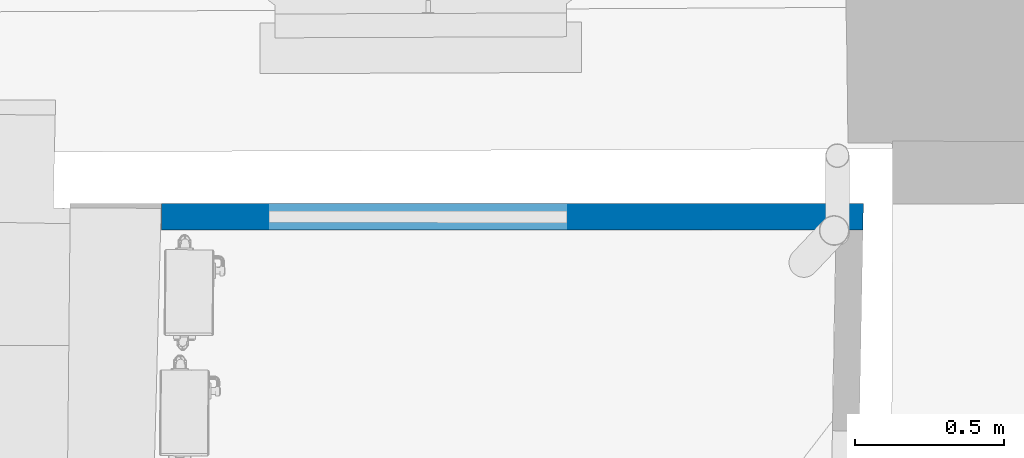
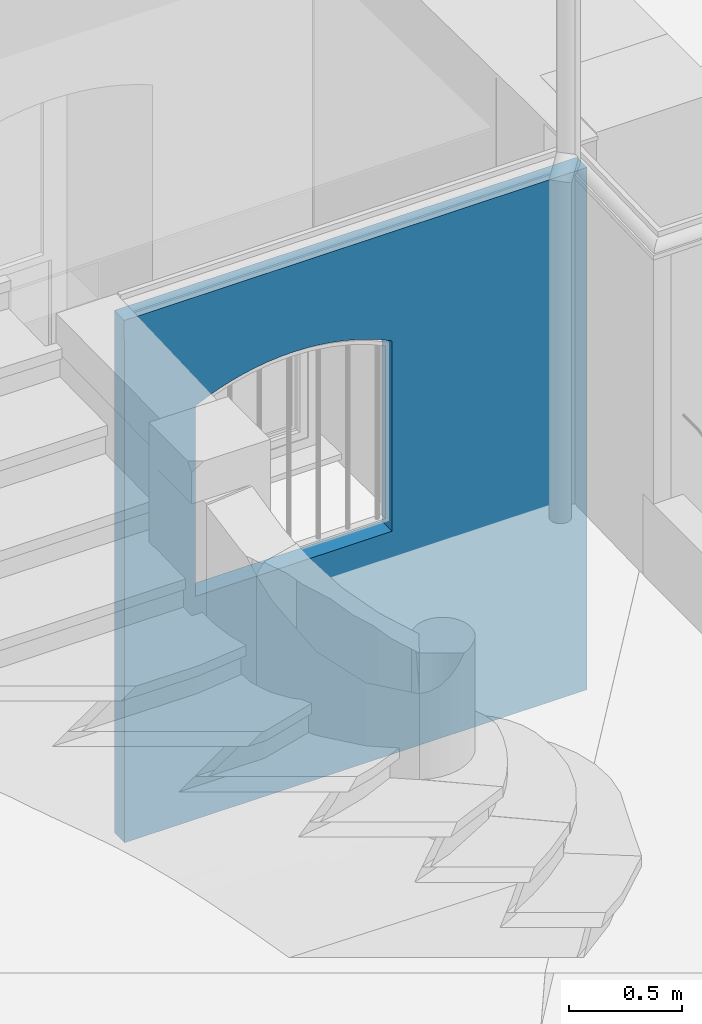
# One storey, part 15 of 133: 1 wall, 1 opening.
"""IFC2X3 building model written with IfcOpenShell, lengths in centimetres."""

from ifc_helpers import new_model, entity, si_unit, converted_unit, point, direction, frame, frame_2d, origin, origin_with_axes, place, context, subcontext, project, spatial, polyline, circle_curve, trimmed, segment, composite_curve, outline, extrude, clip, bounded_halfspace, shape, material, layer, layer_set, layer_usage, type_object, element, save


model = new_model("IFC2X3")

# Units and contexts
model_context = context("Model", 3, precision=0.0001, world=origin(), true_north=direction((0.225632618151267, 0.974212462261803, 0.0)))
body_context = subcontext(model_context, "Body", "Model", "MODEL_VIEW")
footprint_context = subcontext(model_context, "FootPrint", "Model", "MODEL_VIEW")
profile_context = subcontext(model_context, "Profile", "Model", "MODEL_VIEW")
ifc_project = project(units=[si_unit("LENGTHUNIT", "METRE", prefix="CENTI"), si_unit("AREAUNIT", "SQUARE_METRE", prefix="CENTI"), si_unit("VOLUMEUNIT", "CUBIC_METRE", prefix="CENTI"), converted_unit("PLANEANGLEUNIT", "DEGREE", entity("IfcRatioMeasure", 0.0174532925), si_unit("PLANEANGLEUNIT", "RADIAN"), dimensions=[0, 0, 0, 0, 0, 0, 0])], contexts=[model_context])

# Site, building, storey
site_placement = place(None, origin_with_axes())
site = spatial("IfcSite", under=ifc_project, at=site_placement, Name="Default Site", CompositionType="ELEMENT")
building_placement = place(site_placement, origin_with_axes())
building = spatial("IfcBuilding", under=site, at=building_placement, Name="Default Building", CompositionType="ELEMENT")
storey_placement = place(building_placement, frame((0.0, 0.0, -291.400371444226), z_axis=(0.0, 0.0, 1.0), x_axis=(1.0, 0.0, 0.0)))
storey = spatial("IfcBuildingStorey", under=building, at=storey_placement, Name="Rez-de-Jardin", CompositionType="ELEMENT", Elevation=-291.400371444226)

# Wall, opening
ifc_material = material(Name="<aucun>")
ifc_layer = layer(ifc_material, 9.0)
ifc_layer_set = layer_set([ifc_layer], Name="default")
ifc_layer_usage = layer_usage(ifc_layer_set, "AXIS2", "POSITIVE", -4.5)
wall_type = type_object("IfcWallType", Name="default 90", PredefinedType="NOTDEFINED", material=ifc_layer_set)
wall_placement = place(storey_placement, frame((231.900539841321, -975.700000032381, -1.94511073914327e-11), z_axis=(0.0, 0.0, 1.0), x_axis=(-0.999999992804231, 0.000119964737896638, 0.0)))
wall = element("IfcWallStandardCase", 1, at=wall_placement, inside=storey, type_object=wall_type, material=ifc_layer_usage, Name="Enveloppe 352362", context=body_context, shape_type="Clipping", body=[
    clip(clip(extrude(outline(polyline([(226.731242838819, 4.50000000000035), (-9.00150847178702, 4.49999999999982), (-9.16629550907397, -4.49999999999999), (226.495238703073, -4.49999987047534), (226.495036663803, -2.81584441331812), (226.657937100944, -2.81582487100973), (226.731242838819, 4.50000000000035)])), frame((0.0, 0.0, 4.44089209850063e-14), z_axis=(0.0, 0.0, 1.0), x_axis=(1.0, 0.0, 0.0)), (0.0, 0.0, 1.0), 281.400371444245), bounded_halfspace(frame((226.657937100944, -2.81582487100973, 271.400371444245), z_axis=(0.0, 0.0, 1.0), x_axis=(-0.999989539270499, 0.004573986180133, 0.0)), True, frame((226.657937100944, -2.81582487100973, 271.400371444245), z_axis=(0.0, 0.0, 1.0), x_axis=(1.0, 0.0, 0.0)), polyline([(-0.119398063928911, 0.000546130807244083), (0.0733057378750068, 7.31582487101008), (8.88178419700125e-14, 0.0), (-0.119398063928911, 0.000546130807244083)]))), bounded_halfspace(frame((226.731242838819, 4.50000000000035, 271.400371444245), z_axis=(0.0, 0.0, 1.0), x_axis=(-0.0263335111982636, -0.999653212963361, 0.0)), True, frame((226.731242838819, 4.50000000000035, 271.400371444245), z_axis=(0.0, 0.0, 1.0), x_axis=(1.0, 0.0, 0.0)), polyline([(-0.23708381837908, -7.3150757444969), (-0.237083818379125, -1.77635683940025e-13), (8.88178419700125e-14, 0.0), (-0.192703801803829, -7.31527874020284), (-0.23708381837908, -7.3150757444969)]))),
])
opening_placement = place(wall_placement, frame((90.2545268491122, 1.13686837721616e-13, 120.131046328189), z_axis=(0.0, 0.0, 1.0), x_axis=(-1.0, -1.9264239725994e-15, 0.0)))
cartesian_point_1 = entity("IfcCartesianPoint", [-2.22044604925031e-14, 0.0, 102.580862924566])
cartesian_point_2 = entity("IfcCartesianPoint", [-100.144108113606, -1.77635683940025e-13, 102.580862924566])
cartesian_point_3 = entity("IfcCartesianPoint", [-100.144108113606, -4.49999999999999])
element("IfcOpeningElement", 2, at=opening_placement, cuts=wall, Name="4294966553_12", ObjectType="Opening", shapes=[
    shape(body_context, "Body", "SweptSolid", [extrude(outline(composite_curve([segment(polyline([(2.22044604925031e-14, 102.580862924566), (0.0, -2.22044604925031e-14), (100.144108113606, -2.22044604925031e-14), (100.144108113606, 102.580862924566)]), True, "CONTINUOUS"), segment(trimmed(circle_curve(frame_2d((50.0720540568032, -0.0678255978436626), x_axis=(1.0, 0.0)), 114.210174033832), [point((100.144108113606, 102.580862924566))], [point((2.22044604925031e-14, 102.580862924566))], True, "CARTESIAN"), True, "CONTINUOUS")], self_intersect=False)), frame((0.0, -14.5, 0.0), z_axis=(0.0, 1.0, 0.0), x_axis=(-1.0, 0.0, 0.0)), (0.0, 0.0, 1.0), 29.0)]),
    shape(profile_context, "Profile", "GeometricCurveSet", [entity("IfcGeometricCurveSet", [entity("IfcCompositeCurve", [entity("IfcCompositeCurveSegment", "CONTINUOUS", True, entity("IfcPolyline", [cartesian_point_1, entity("IfcCartesianPoint", [0.0, 0.0, -2.22044604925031e-14]), entity("IfcCartesianPoint", [-100.144108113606, -1.77635683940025e-13, -2.22044604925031e-14]), cartesian_point_2])), entity("IfcCompositeCurveSegment", "CONTINUOUS", True, entity("IfcTrimmedCurve", entity("IfcCircle", entity("IfcAxis2Placement3D", entity("IfcCartesianPoint", [-50.0720540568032, -1.77635683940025e-13, -0.0678255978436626]), entity("IfcDirection", [-1.7738006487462e-15, 1.0, 7.6822171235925e-15]), entity("IfcDirection", [1.0, 1.7738006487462e-15, 0.0])), 114.210174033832), [cartesian_point_2], [cartesian_point_1], True, "CARTESIAN"))], False)])]),
    shape(footprint_context, "FootPrint", "GeometricCurveSet", [entity("IfcGeometricCurveSet", [entity("IfcPolyline", [cartesian_point_3, entity("IfcCartesianPoint", [0.0, -4.50000000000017]), entity("IfcCartesianPoint", [0.0, 4.49999999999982]), entity("IfcCartesianPoint", [-100.144108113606, 4.49999999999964]), cartesian_point_3])])]),
])

save(model, "model.ifc")
